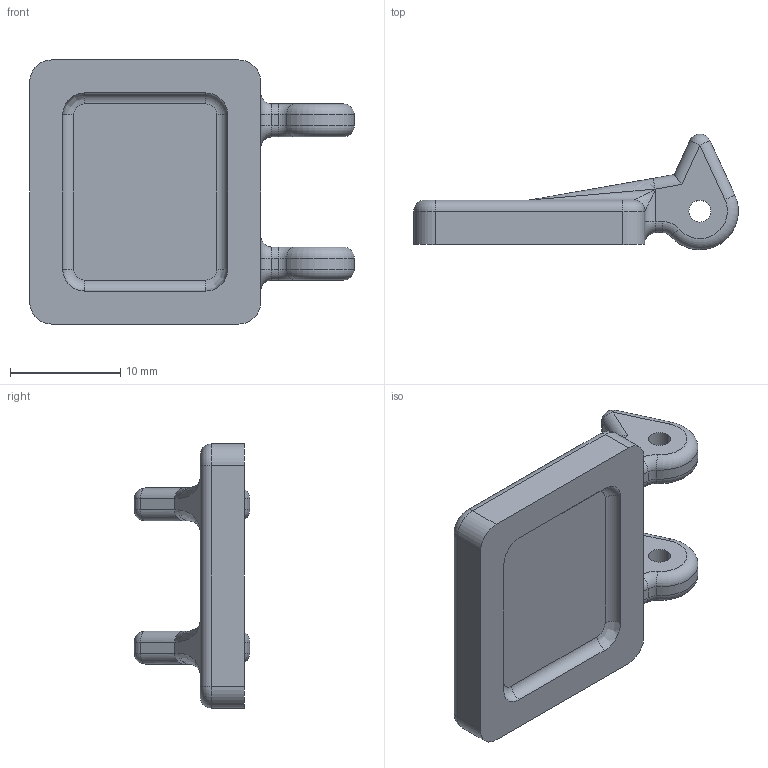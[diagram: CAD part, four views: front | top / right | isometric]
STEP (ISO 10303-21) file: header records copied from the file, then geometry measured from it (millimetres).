
FILE_DESCRIPTION((''),'2;1');
FILE_NAME('FLEGELKLAPPE0','2022-06-13T16:09:02',('H041970'),(''),'CREO PARAMETRIC BY PTC INC, 2021284','CREO PARAMETRIC BY PTC INC, 2021284','');
FILE_SCHEMA(('CONFIG_CONTROL_DESIGN'));
Length unit declared in the file: millimetre
Products named in the file (1): FLEGELKLAPPE0
Bounding box: 29.49 x 10.5 x 24 mm (x, y, z)
Volume: 2116.4 mm3; surface area: 1721.1 mm2
Topology: 1 solids, 1 shells, 98 faces, 236 edges, 148 vertices
Faces by surface type: cylinder 49, plane 19, torus 18, bspline 8, sphere 4
Entity records: 4277 total; most frequent: CARTESIAN_POINT 1961, DIRECTION 502, ORIENTED_EDGE 458, EDGE_CURVE 229, AXIS2_PLACEMENT_3D 197, VERTEX_POINT 134, VECTOR 108, LINE 108
